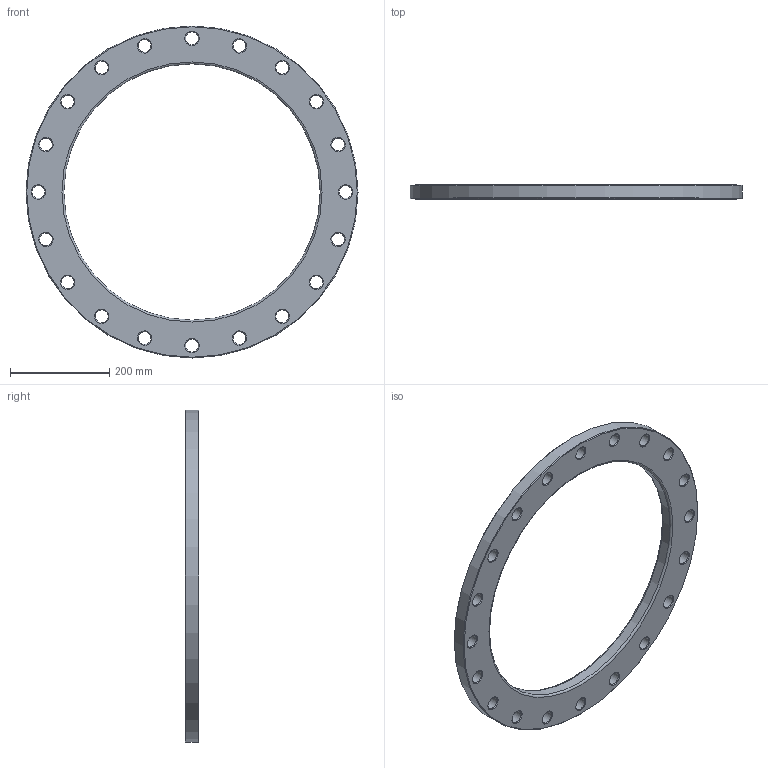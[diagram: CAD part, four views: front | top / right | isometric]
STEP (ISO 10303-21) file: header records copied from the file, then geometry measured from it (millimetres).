
FILE_DESCRIPTION(/* description */ ('Unknown'),/* implementation_level */ '2;1');
FILE_NAME(/* name */ 'FZ450B',/* time_stamp */ '2021-03-15T10:53:58+01:00',/* author */ ('Unknown'),/* organization */ ('Unknown'),/* preprocessor_version */ 'ST-DEVELOPER v16.7',/* originating_system */ 'Solid Edge',/* authorisation */ 'Unknown');
FILE_SCHEMA (('AUTOMOTIVE_DESIGN {1 0 10303 214 3 1 1}'));
Length unit declared in the file: millimetre
Products named in the file (1): FZ450B
Bounding box: 670 x 28 x 670 mm (x, y, z)
Volume: 3676775.9 mm3; surface area: 402171 mm2
Topology: 1 solids, 1 shells, 68 faces, 214 edges, 148 vertices
Faces by surface type: cone 42, cylinder 22, plane 2, torus 2
Full cylindrical faces by diameter (mm): 26 x20, 517 x1, 670 x1
Entity records: 1678 total; most frequent: DIRECTION 314, CARTESIAN_POINT 245, ORIENTED_EDGE 176, EDGE_LOOP 176, FACE_BOUND 176, AXIS2_PLACEMENT_3D 157, EDGE_CURVE 88, VERTEX_POINT 88
